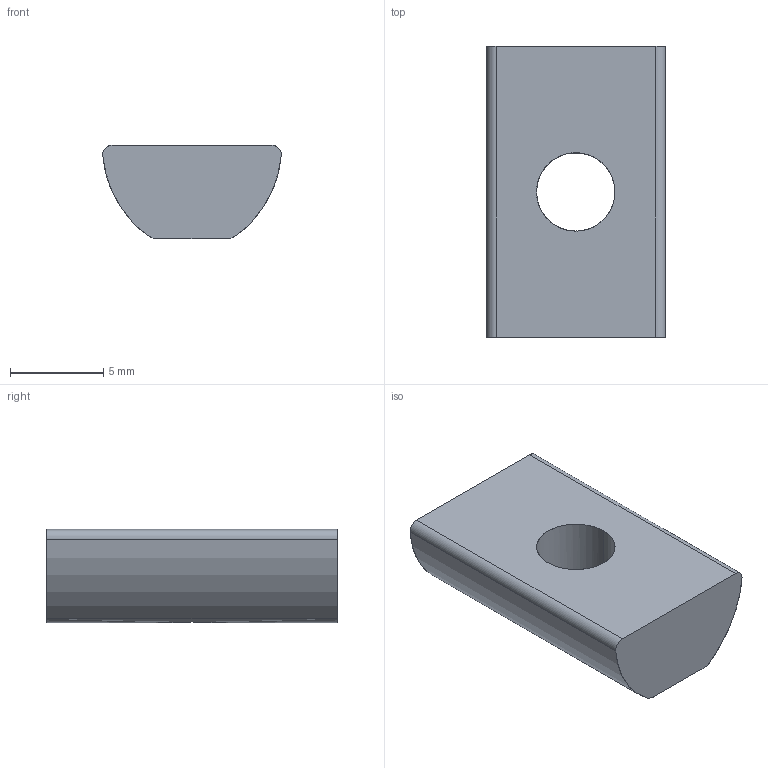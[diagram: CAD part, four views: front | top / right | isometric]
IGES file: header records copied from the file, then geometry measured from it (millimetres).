
Start section: SolidWorks IGES file using analytic representation for surfaces
Global section: file name: C:\Users\admin\Desktop\IGES\J3M5F.igs; native system: SolidWorks 2014; preprocessor: SolidWorks 2014; author: admin_pc; date: 170524.165457; units: millimetre
Bounding box: 9.58 x 15.6 x 5 mm (x, y, z)
Surface area: 511.5 mm2 (no closed solid volume)
Topology: 0 solids, 0 shells, 13 faces, 160 edges, 160 vertices
Faces by surface type: revolution 8, bspline 5
